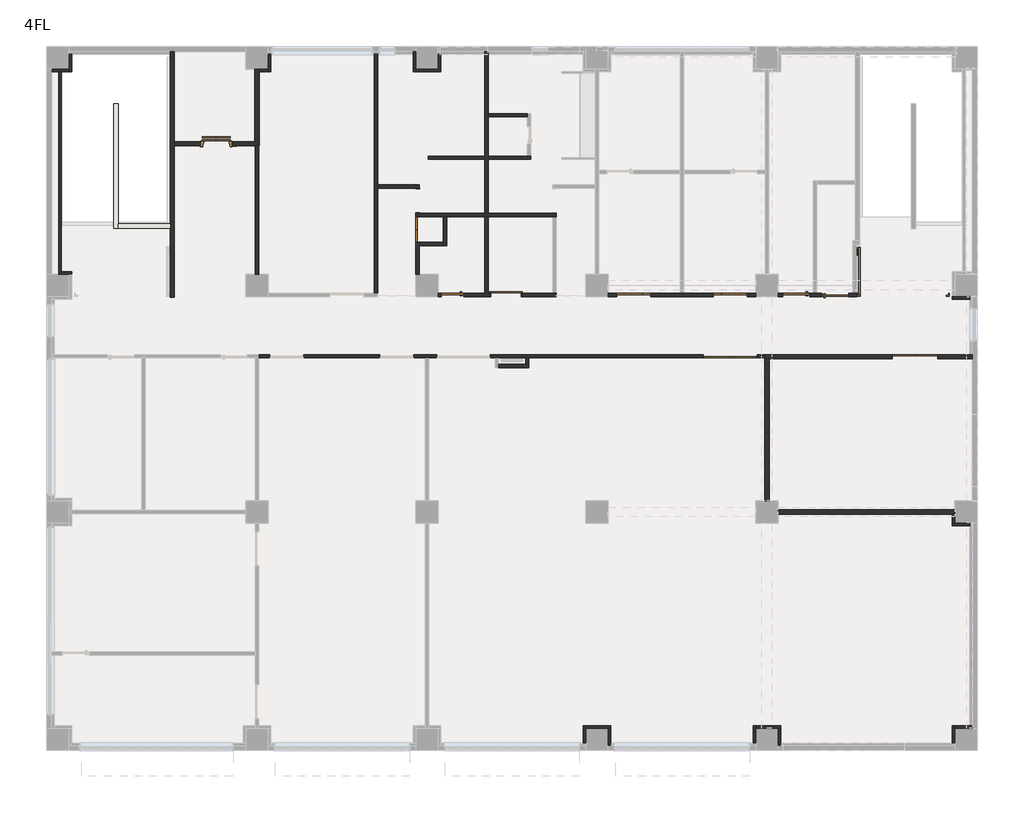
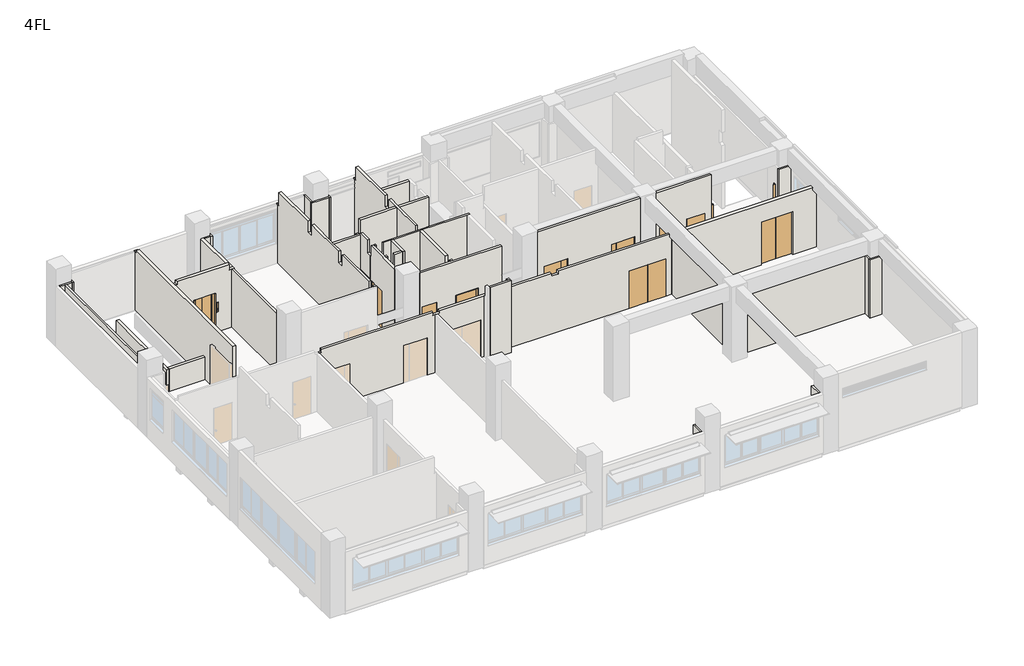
# One storey, part 2 of 5: 45 walls, 12 doors.
"""IFC4 building model written with IfcOpenShell, lengths in millimetres."""

from ifc_helpers import new_model, si_unit, frame, origin, place, context, project, spatial, polyline, outline, extrude, faceted_brep, transform, mapped, element, save
from components import door_0812e9ce, door_48d1ee04, door_18b0804b, door_c235f466, door_dd0264bc, door_2816d948, door_f9cae23c, door_7458d189, door_9fa6e922, door_14d6dc4f, sd13_d994cb3e

model = new_model("IFC4")

# Units and contexts
model_context = context("Model", 3, world=origin())
ifc_project = project(units=[si_unit("LENGTHUNIT", "METRE", prefix="MILLI")], contexts=[model_context])

# Site, building, storey
site = spatial("IfcSite", under=ifc_project)
building = spatial("IfcBuilding", under=site)
storey = spatial("IfcBuildingStorey", under=building, Name="4FL", Elevation=12300.0)

# Doors
placement = place(None, origin())
door_shape = door_0812e9ce(model_context)
element("IfcDoor", 1, ObjectType="営_片開き扉 : LD3 950*2000", at=placement, inside=storey, context=model_context, shape_type="MappedRepresentation", body=[
    mapped(door_shape, transform((26030.0, 15665.0, 12300.0), x_axis=(-1.0, 0.0, 0.0), y_axis=(0.0, -1.0, 0.0), z_axis=(0.0, 0.0, 1.0))),
])
element("IfcDoor", 2, ObjectType="営_片開き扉 : LD3 950*2000", at=placement, inside=storey, context=model_context, shape_type="MappedRepresentation", body=[
    mapped(door_shape, transform((27410.0, 15665.0, 12300.0), x_axis=(1.0, 0.0, 0.0), y_axis=(0.0, 1.0, 0.0), z_axis=(0.0, 0.0, 1.0))),
])
door_2_shape = door_48d1ee04(model_context)
element("IfcDoor", 3, ObjectType="営_片開き扉 : LD11 850*2000", at=placement, inside=storey, context=model_context, shape_type="MappedRepresentation", body=[
    mapped(door_2_shape, transform((13900.0, 15665.0, 12300.0), x_axis=(-1.0, 0.0, 0.0), y_axis=(0.0, -1.0, 0.0), z_axis=(0.0, 0.0, 1.0))),
])
door_3_shape = door_18b0804b(model_context)
element("IfcDoor", 4, ObjectType="営_親子扉 : LD2 1200*2000", at=placement, inside=storey, context=model_context, shape_type="MappedRepresentation", body=[
    mapped(door_3_shape, transform((23700.0, 15665.0, 12300.0), x_axis=(1.0, 0.0, 0.0), y_axis=(0.0, 1.0, 0.0), z_axis=(0.0, 0.0, 1.0))),
])
door_4_shape = door_c235f466(model_context)
element("IfcDoor", 5, ObjectType="営_親子扉 : LD2 1200*2000", at=placement, inside=storey, context=model_context, shape_type="MappedRepresentation", body=[
    mapped(door_4_shape, transform((20300.0, 15665.0, 12300.0), x_axis=(-1.0, 0.0, 0.0), y_axis=(0.0, -1.0, 0.0), z_axis=(0.0, 0.0, 1.0))),
])
door_5_shape = door_dd0264bc(model_context)
element("IfcDoor", 6, ObjectType="営_両開き扉 : SD3b 1600*2300", at=placement, inside=storey, context=model_context, shape_type="MappedRepresentation", body=[
    mapped(door_5_shape, transform((30235.0, 13480.0, 12300.0), x_axis=(1.0, 0.0, 0.0), y_axis=(0.0, 1.0, 0.0), z_axis=(0.0, 0.0, 1.0))),
])
door_6_shape = door_2816d948(model_context)
element("IfcDoor", 7, ObjectType="営_両開き扉 : LD4 1900*2000", at=placement, inside=storey, context=model_context, shape_type="MappedRepresentation", body=[
    mapped(door_6_shape, transform((23710.0, 13500.0, 12300.0), x_axis=(-1.0, 0.0, 0.0), y_axis=(0.0, -1.0, 0.0), z_axis=(0.0, 0.0, 1.0))),
])
door_7_shape = door_f9cae23c(model_context)
element("IfcDoor", 8, ObjectType="営_両開き扉 : LD5 900*2000", at=placement, inside=storey, context=model_context, shape_type="MappedRepresentation", body=[
    mapped(door_7_shape, transform((12665.0, 17975.0, 12300.0), x_axis=(0.0, 1.0, 0.0), y_axis=(-1.0, 0.0, 0.0), z_axis=(0.0, 0.0, 1.0))),
])
door_8_shape = door_7458d189(model_context)
element("IfcDoor", 9, ObjectType="営_引戸／引込戸 : LD1 960*2000", at=placement, inside=storey, context=model_context, shape_type="MappedRepresentation", body=[
    mapped(door_8_shape, transform((15800.0, 15665.0, 12300.0), x_axis=(1.0, 0.0, 0.0), y_axis=(0.0, 1.0, 0.0), z_axis=(0.0, 0.0, 1.0))),
])
door_9_shape = door_9fa6e922(model_context)
element("IfcDoor", 10, ObjectType="営_EVドア : EVドア", at=placement, inside=storey, context=model_context, shape_type="MappedRepresentation", body=[
    mapped(door_9_shape, transform((5560.0, 21000.0, 12300.0), x_axis=(1.0, 0.0, 0.0), y_axis=(0.0, 1.0, 0.0), z_axis=(0.0, 0.0, 1.0))),
])
door_10_shape = door_14d6dc4f(model_context)
element("IfcDoor", 11, ObjectType="営_三方枠 : S1_850*2000", at=placement, inside=storey, context=model_context, shape_type="MappedRepresentation", body=[
    mapped(door_10_shape, transform((12665.0, 18990.25, 12300.0), x_axis=(0.0, 1.0, 0.0), y_axis=(-1.0, 0.0, 0.0), z_axis=(0.0, 0.0, 1.0))),
])
sd13_shape = sd13_d994cb3e(model_context)
element("IfcDoor", 12, ObjectType="営_随閉扉 B階段 2～4F : SD13", at=placement, inside=storey, context=model_context, shape_type="MappedRepresentation", body=[
    mapped(sd13_shape, transform((28100.0, 15665.0, 12300.0), x_axis=(0.0, -1.0, 0.0), y_axis=(1.0, 0.0, 0.0), z_axis=(0.0, 0.0, 1.0))),
])

# Walls
element("IfcWall", 13, ObjectType="(内壁)150_RC", at=placement, inside=storey, context=model_context, shape_type="Brep", body=[
    faceted_brep([(24925.0, 13555.0, 15400.0), (25175.0, 13555.0, 15400.0), (25175.0, 13555.0, 15550.0), (32050.0, 13555.0, 15550.0), (32050.0, 13555.0, 15400.0), (32250.0, 13555.0, 15400.0), (32250.0, 13555.0, 12300.0), (31035.0, 13555.0, 12300.0), (31035.0, 13555.0, 14600.0), (29435.0, 13555.0, 14600.0), (29435.0, 13555.0, 12300.0), (24925.0, 13555.0, 12300.0), (25175.0, 13405.0, 15400.0), (25075.0, 13405.0, 15400.0), (24925.0, 13405.0, 15400.0), (24925.0, 13405.0, 12300.0), (25075.0, 13405.0, 12300.0), (29435.0, 13405.0, 12300.0), (29435.0, 13405.0, 14600.0), (31035.0, 13405.0, 14600.0), (31035.0, 13405.0, 12300.0), (32250.0, 13405.0, 12300.0), (32250.0, 13405.0, 15400.0), (32050.0, 13405.0, 15400.0), (32050.0, 13405.0, 15550.0), (25175.0, 13405.0, 15550.0), (24925.0, 13440.0, 12300.0), (24925.0, 13440.0, 15400.0)], [[[0, 1, 2, 3, 4, 5, 6, 7, 8, 9, 10, 11]], [[12, 13, 14, 15, 16, 17, 18, 19, 20, 21, 22, 23, 24, 25]], [[6, 21, 20, 7]], [[15, 26, 11, 10, 17, 16]], [[21, 6, 5, 22]], [[11, 26, 15, 14, 27, 0]], [[1, 12, 25, 2]], [[12, 1, 0, 27, 14, 13]], [[4, 23, 22, 5]], [[23, 4, 3, 24]], [[10, 9, 18, 17]], [[8, 7, 20, 19]], [[9, 8, 19, 18]], [[3, 2, 25, 24]]]),
])
element("IfcWall", 14, ObjectType="(内壁)150_RC", at=placement, inside=storey, context=model_context, shape_type="SweptSolid", body=[
    extrude(outline(polyline([(24925.0, 13405.0), (25075.0, 13405.0), (25075.0, 8395.0), (24925.0, 8395.0), (24925.0, 13405.0)])), frame((0.0, 0.0, 12300.0), z_axis=(0.0, 0.0, 1.0), x_axis=(1.0, 0.0, 0.0)), (0.0, 0.0, 1.0), 3100.0),
])
element("IfcWall", 15, ObjectType="(内壁)150_RC", at=placement, inside=storey, context=model_context, shape_type="Brep", body=[
    faceted_brep([(25395.0, 7925.0, 12300.0), (31630.0, 7925.0, 12300.0), (31630.0, 7925.0, 15400.0), (31630.0, 7925.0, 15450.0), (25395.0, 7925.0, 15450.0), (31630.0, 8075.0, 12300.0), (25395.0, 8075.0, 12300.0), (25395.0, 8075.0, 15450.0), (31630.0, 8075.0, 15450.0)], [[[0, 1, 2, 3, 4]], [[5, 6, 7, 8]], [[0, 6, 5, 1]], [[6, 0, 4, 7]], [[1, 5, 8, 3, 2]], [[4, 3, 8, 7]]]),
])
element("IfcWall", 16, ObjectType="(内壁)150_RC", at=placement, inside=storey, context=model_context, shape_type="Brep", body=[
    faceted_brep([(3925.0, 24250.0, 12300.0), (3925.0, 18175.0, 12300.0), (3925.0, 18025.0, 12300.0), (3925.0, 15580.0, 12300.0), (3925.0, 15580.0, 15550.0), (3925.0, 24050.0, 15550.0), (3925.0, 24050.0, 15450.0), (3925.0, 24250.0, 15450.0), (4075.0, 15580.0, 12300.0), (4075.0, 20925.0, 12300.0), (4075.0, 21075.0, 12300.0), (4075.0, 24250.0, 12300.0), (4075.0, 24250.0, 15450.0), (4075.0, 24050.0, 15450.0), (4075.0, 24050.0, 15550.0), (4075.0, 21075.0, 15550.0), (4075.0, 20925.0, 15550.0), (4075.0, 15580.0, 15550.0)], [[[0, 1, 2, 3, 4, 5, 6, 7]], [[8, 9, 10, 11, 12, 13, 14, 15, 16, 17]], [[3, 2, 1, 0, 11, 10, 9, 8]], [[4, 3, 8, 17]], [[4, 17, 16, 15, 14, 5]], [[11, 0, 7, 12]], [[13, 6, 5, 14]], [[6, 13, 12, 7]]]),
])
element("IfcWall", 17, ObjectType="(内壁)150_RC", at=placement, inside=storey, context=model_context, shape_type="Brep", body=[
    faceted_brep([(7075.0, 20925.0, 15400.0), (7060.0, 20925.0, 15400.0), (6940.0, 20925.0, 15400.0), (6825.0, 20925.0, 15400.0), (6825.0, 20925.0, 15700.0), (4175.0, 20925.0, 15700.0), (4175.0, 20925.0, 15550.0), (4075.0, 20925.0, 15550.0), (4075.0, 20925.0, 12300.0), (5000.0, 20925.0, 12300.0), (5000.0, 20925.0, 14400.0), (6120.0, 20925.0, 14400.0), (6120.0, 20925.0, 12300.0), (6940.0, 20925.0, 12300.0), (7060.0, 20925.0, 12300.0), (7075.0, 20925.0, 12300.0), (6825.0, 21075.0, 15400.0), (6925.0, 21075.0, 15400.0), (7075.0, 21075.0, 15400.0), (7075.0, 21075.0, 12300.0), (6925.0, 21075.0, 12300.0), (6120.0, 21075.0, 12300.0), (6120.0, 21075.0, 14400.0), (5000.0, 21075.0, 14400.0), (5000.0, 21075.0, 12300.0), (4075.0, 21075.0, 12300.0), (4075.0, 21075.0, 15550.0), (4175.0, 21075.0, 15550.0), (4175.0, 21075.0, 15700.0), (6825.0, 21075.0, 15700.0)], [[[0, 1, 2, 3, 4, 5, 6, 7, 8, 9, 10, 11, 12, 13, 14, 15]], [[16, 17, 18, 19, 20, 21, 22, 23, 24, 25, 26, 27, 28, 29]], [[19, 15, 14, 13, 12, 21, 20]], [[8, 25, 24, 9]], [[15, 19, 18, 0]], [[25, 8, 7, 26]], [[3, 2, 1, 0, 18, 17, 16]], [[3, 16, 29, 4]], [[24, 23, 10, 9]], [[22, 21, 12, 11]], [[23, 22, 11, 10]], [[4, 29, 28, 5]], [[27, 6, 5, 28]], [[6, 27, 26, 7]]]),
])
element("IfcWall", 18, ObjectType="(内壁)150_RC", at=placement, inside=storey, context=model_context, shape_type="Brep", body=[
    faceted_brep([(7075.0, 21075.0, 12300.0), (7075.0, 23540.0, 12300.0), (7075.0, 23630.0, 12300.0), (7075.0, 23630.0, 15400.0), (7075.0, 23540.0, 15400.0), (7075.0, 21075.0, 15400.0), (6925.0, 23630.0, 12300.0), (6925.0, 21075.0, 12300.0), (6925.0, 21075.0, 15400.0), (6925.0, 23630.0, 15400.0)], [[[0, 1, 2, 3, 4, 5]], [[6, 7, 8, 9]], [[0, 7, 6, 2, 1]], [[7, 0, 5, 8]], [[2, 6, 9, 3]], [[5, 4, 3, 9, 8]]]),
])
element("IfcWall", 19, ObjectType="(内壁)W3", at=placement, inside=storey, context=model_context, shape_type="SweptSolid", body=[
    extrude(outline(polyline([(6940.0, 20925.0), (7060.0, 20925.0), (7060.0, 16395.0), (6940.0, 16395.0), (6940.0, 20925.0)])), frame((0.0, 0.0, 12300.0), z_axis=(0.0, 0.0, 1.0), x_axis=(1.0, 0.0, 0.0)), (0.0, 0.0, 1.0), 3100.0),
])
element("IfcWall", 20, ObjectType="(内壁)W3", at=placement, inside=storey, context=model_context, shape_type="Brep", body=[
    faceted_brep([(28175.0, 15725.0, 16250.0), (28175.0, 15725.0, 16150.0), (28175.0, 15725.0, 12300.0), (28025.0, 15725.0, 12300.0), (27885.0, 15725.0, 12300.0), (27885.0, 15725.0, 14300.0), (26935.0, 15725.0, 14300.0), (26935.0, 15725.0, 12300.0), (26760.0, 15725.0, 12300.0), (26640.0, 15725.0, 12300.0), (26505.0, 15725.0, 12300.0), (26505.0, 15725.0, 14300.0), (25555.0, 15725.0, 14300.0), (25555.0, 15725.0, 12300.0), (25395.0, 15725.0, 12300.0), (25395.0, 15725.0, 16250.0), (28175.0, 15605.0, 12300.0), (28175.0, 15605.0, 16250.0), (25395.0, 15605.0, 16250.0), (25395.0, 15605.0, 12300.0), (25555.0, 15605.0, 12300.0), (25555.0, 15605.0, 14300.0), (26505.0, 15605.0, 14300.0), (26505.0, 15605.0, 12300.0), (26935.0, 15605.0, 12300.0), (26935.0, 15605.0, 14300.0), (27885.0, 15605.0, 14300.0), (27885.0, 15605.0, 12300.0)], [[[0, 1, 2, 3, 4, 5, 6, 7, 8, 9, 10, 11, 12, 13, 14, 15]], [[16, 17, 18, 19, 20, 21, 22, 23, 24, 25, 26, 27]], [[2, 16, 27, 4, 3]], [[23, 10, 9, 8, 7, 24]], [[13, 20, 19, 14]], [[17, 0, 15, 18]], [[2, 1, 0, 17, 16]], [[23, 22, 11, 10]], [[21, 20, 13, 12]], [[22, 21, 12, 11]], [[7, 6, 25, 24]], [[5, 4, 27, 26]], [[6, 5, 26, 25]], [[15, 14, 19, 18]]]),
    faceted_brep([(20900.0, 15725.0, 12300.0), (20900.0, 15725.0, 14300.0), (19700.0, 15725.0, 14300.0), (19700.0, 15725.0, 12300.0), (19395.0, 15725.0, 12300.0), (19395.0, 15725.0, 16250.0), (24605.0, 15725.0, 16250.0), (24605.0, 15725.0, 12300.0), (24300.0, 15725.0, 12300.0), (24300.0, 15725.0, 14300.0), (23100.0, 15725.0, 14300.0), (23100.0, 15725.0, 12300.0), (22060.0, 15725.0, 12300.0), (21940.0, 15725.0, 12300.0), (20900.0, 15605.0, 14300.0), (20900.0, 15605.0, 12300.0), (23100.0, 15605.0, 12300.0), (23100.0, 15605.0, 14300.0), (24300.0, 15605.0, 14300.0), (24300.0, 15605.0, 12300.0), (24605.0, 15605.0, 12300.0), (24605.0, 15605.0, 16250.0), (19395.0, 15605.0, 16250.0), (19395.0, 15605.0, 12300.0), (19700.0, 15605.0, 12300.0), (19700.0, 15605.0, 14300.0)], [[[0, 1, 2, 3, 4, 5, 6, 7, 8, 9, 10, 11, 12, 13]], [[14, 15, 16, 17, 18, 19, 20, 21, 22, 23, 24, 25]], [[15, 0, 13, 12, 11, 16]], [[3, 24, 23, 4]], [[19, 8, 7, 20]], [[5, 22, 21, 6]], [[15, 14, 1, 0]], [[25, 24, 3, 2]], [[14, 25, 2, 1]], [[11, 10, 17, 16]], [[9, 8, 19, 18]], [[10, 9, 18, 17]], [[5, 4, 23, 22]], [[7, 6, 21, 20]]]),
])
element("IfcWall", 21, ObjectType="(内壁)W4", at=placement, inside=storey, context=model_context, shape_type="Brep", body=[
    faceted_brep([(14300.0, 15725.0, 12300.0), (14300.0, 15725.0, 14300.0), (13500.0, 15725.0, 14300.0), (13500.0, 15725.0, 12300.0), (13395.0, 15725.0, 12300.0), (13395.0, 15725.0, 16150.0), (15040.0, 15725.0, 16150.0), (15160.0, 15725.0, 16150.0), (17440.0, 15725.0, 16150.0), (17560.0, 15725.0, 16150.0), (17560.0, 15725.0, 12300.0), (17440.0, 15725.0, 12300.0), (16355.0, 15725.0, 12300.0), (16355.0, 15725.0, 14325.0), (15220.0, 15725.0, 14325.0), (15220.0, 15725.0, 12300.0), (15160.0, 15725.0, 12300.0), (15040.0, 15725.0, 12300.0), (14300.0, 15605.0, 14300.0), (14300.0, 15605.0, 12300.0), (15220.0, 15605.0, 12300.0), (15220.0, 15605.0, 14325.0), (16355.0, 15605.0, 14325.0), (16355.0, 15605.0, 12300.0), (17560.0, 15605.0, 12300.0), (17560.0, 15605.0, 16150.0), (13395.0, 15605.0, 16150.0), (13395.0, 15605.0, 12300.0), (13500.0, 15605.0, 12300.0), (13500.0, 15605.0, 14300.0)], [[[0, 1, 2, 3, 4, 5, 6, 7, 8, 9, 10, 11, 12, 13, 14, 15, 16, 17]], [[18, 19, 20, 21, 22, 23, 24, 25, 26, 27, 28, 29]], [[19, 0, 17, 16, 15, 20]], [[3, 28, 27, 4]], [[24, 23, 12, 11, 10]], [[25, 9, 8, 7, 6, 5, 26]], [[19, 18, 1, 0]], [[29, 28, 3, 2]], [[18, 29, 2, 1]], [[14, 21, 20, 15]], [[22, 13, 12, 23]], [[21, 14, 13, 22]], [[5, 4, 27, 26]], [[10, 9, 25, 24]]]),
])
element("IfcWall", 22, ObjectType="(内壁)W4", at=placement, inside=storey, context=model_context, shape_type="Brep", body=[
    faceted_brep([(11140.0, 15725.0, 16150.0), (11140.0, 15825.0, 16150.0), (11140.0, 15825.0, 15450.0), (11140.0, 16175.0, 15450.0), (11140.0, 16175.0, 16150.0), (11140.0, 18495.0, 16150.0), (11140.0, 18495.0, 15550.0), (11140.0, 18845.0, 15550.0), (11140.0, 18845.0, 16150.0), (11140.0, 21165.0, 16150.0), (11140.0, 21165.0, 15550.0), (11140.0, 21515.0, 15550.0), (11140.0, 21515.0, 16150.0), (11140.0, 24050.0, 16150.0), (11140.0, 24050.0, 15450.0), (11140.0, 24250.0, 15450.0), (11140.0, 24250.0, 15400.0), (11140.0, 24160.6075581, 15400.0), (11140.0, 24160.6075581, 12300.0), (11140.0, 15725.0, 12300.0), (11260.0, 15825.0, 16150.0), (11260.0, 15725.0, 16150.0), (11260.0, 15725.0, 12300.0), (11260.0, 19430.0, 12300.0), (11260.0, 19550.0, 12300.0), (11260.0, 24160.6075581, 12300.0), (11260.0, 24160.6075581, 15400.0), (11260.0, 24250.0, 15400.0), (11260.0, 24250.0, 15450.0), (11260.0, 24050.0, 15450.0), (11260.0, 24050.0, 16150.0), (11260.0, 21515.0, 16150.0), (11260.0, 21515.0, 15550.0), (11260.0, 21165.0, 15550.0), (11260.0, 21165.0, 16150.0), (11260.0, 19550.0, 16150.0), (11260.0, 19430.0, 16150.0), (11260.0, 18845.0, 16150.0), (11260.0, 18845.0, 15550.0), (11260.0, 18495.0, 15550.0), (11260.0, 18495.0, 16150.0), (11260.0, 16175.0, 16150.0), (11260.0, 16175.0, 15450.0), (11260.0, 15825.0, 15450.0)], [[[0, 1, 2, 3, 4, 5, 6, 7, 8, 9, 10, 11, 12, 13, 14, 15, 16, 17, 18, 19]], [[20, 21, 22, 23, 24, 25, 26, 27, 28, 29, 30, 31, 32, 33, 34, 35, 36, 37, 38, 39, 40, 41, 42, 43]], [[19, 18, 25, 24, 23, 22]], [[1, 0, 21, 20]], [[4, 41, 40, 5]], [[30, 13, 12, 31]], [[8, 37, 36, 35, 34, 9]], [[15, 28, 27, 16]], [[2, 1, 20, 43]], [[3, 2, 43, 42]], [[4, 3, 42, 41]], [[29, 14, 13, 30]], [[14, 29, 28, 15]], [[17, 26, 25, 18]], [[26, 17, 16, 27]], [[39, 6, 5, 40]], [[6, 39, 38, 7]], [[7, 38, 37, 8]], [[33, 10, 9, 34]], [[10, 33, 32, 11]], [[11, 32, 31, 12]], [[0, 19, 22, 21]]]),
])
element("IfcWall", 23, ObjectType="(内壁)W4", at=placement, inside=storey, context=model_context, shape_type="Brep", body=[
    faceted_brep([(12725.0, 17525.0, 12300.0), (12725.0, 17525.0, 14300.0), (12725.0, 18425.0, 14300.0), (12725.0, 18425.0, 12300.0), (12725.0, 18430.0, 12300.0), (12725.0, 18550.0, 12300.0), (12725.0, 18550.0, 15550.0), (12725.0, 18495.0, 15550.0), (12725.0, 18495.0, 16150.0), (12725.0, 18430.0, 16150.0), (12725.0, 17520.0, 16150.0), (12725.0, 17400.0, 16150.0), (12725.0, 16395.0, 16150.0), (12725.0, 16395.0, 12300.0), (12725.0, 17400.0, 12300.0), (12725.0, 17520.0, 12300.0), (12605.0, 17525.0, 14300.0), (12605.0, 17525.0, 12300.0), (12605.0, 16395.0, 12300.0), (12605.0, 16395.0, 16150.0), (12605.0, 18495.0, 16150.0), (12605.0, 18495.0, 15550.0), (12605.0, 18550.0, 15550.0), (12605.0, 18550.0, 12300.0), (12605.0, 18425.0, 12300.0), (12605.0, 18425.0, 14300.0)], [[[0, 1, 2, 3, 4, 5, 6, 7, 8, 9, 10, 11, 12, 13, 14, 15]], [[16, 17, 18, 19, 20, 21, 22, 23, 24, 25]], [[17, 0, 15, 14, 13, 18]], [[23, 5, 4, 3, 24]], [[19, 12, 11, 10, 9, 8, 20]], [[5, 23, 22, 6]], [[17, 16, 1, 0]], [[25, 24, 3, 2]], [[16, 25, 2, 1]], [[13, 12, 19, 18]], [[7, 21, 20, 8]], [[21, 7, 6, 22]]]),
])
element("IfcWall", 24, ObjectType="(内壁)W4", at=placement, inside=storey, context=model_context, shape_type="Brep", body=[
    faceted_brep([(12725.0, 18430.0, 12300.0), (13570.0, 18430.0, 12300.0), (13690.0, 18430.0, 12300.0), (15040.0, 18430.0, 12300.0), (15160.0, 18430.0, 12300.0), (17440.0, 18430.0, 12300.0), (17560.0, 18430.0, 12300.0), (17560.0, 18430.0, 16150.0), (17440.0, 18430.0, 16150.0), (15160.0, 18430.0, 16150.0), (15040.0, 18430.0, 16150.0), (13690.0, 18430.0, 16150.0), (13570.0, 18430.0, 16150.0), (13175.0, 18430.0, 16150.0), (13175.0, 18430.0, 15400.0), (12825.0, 18430.0, 15400.0), (12825.0, 18430.0, 16150.0), (12725.0, 18430.0, 16150.0), (17560.0, 18550.0, 12300.0), (17440.0, 18550.0, 12300.0), (15160.0, 18550.0, 12300.0), (15040.0, 18550.0, 12300.0), (12725.0, 18550.0, 12300.0), (12725.0, 18550.0, 15550.0), (12825.0, 18550.0, 15550.0), (12825.0, 18550.0, 15400.0), (13175.0, 18550.0, 15400.0), (13175.0, 18550.0, 15550.0), (15040.0, 18550.0, 15550.0), (15160.0, 18550.0, 15550.0), (17440.0, 18550.0, 15550.0), (17560.0, 18550.0, 15550.0), (12825.0, 18495.0, 16150.0), (12725.0, 18495.0, 16150.0), (17560.0, 18495.0, 16150.0), (13175.0, 18495.0, 16150.0), (12725.0, 18495.0, 15550.0), (17560.0, 18495.0, 15550.0), (13175.0, 18495.0, 15550.0), (12825.0, 18495.0, 15550.0)], [[[0, 1, 2, 3, 4, 5, 6, 7, 8, 9, 10, 11, 12, 13, 14, 15, 16, 17]], [[18, 19, 20, 21, 22, 23, 24, 25, 26, 27, 28, 29, 30, 31]], [[6, 5, 4, 3, 2, 1, 0, 22, 21, 20, 19, 18]], [[17, 16, 32, 33]], [[13, 12, 11, 10, 9, 8, 7, 34, 35]], [[0, 17, 33, 36, 23, 22]], [[7, 6, 18, 31, 37, 34]], [[14, 13, 35, 38, 27, 26]], [[15, 14, 26, 25]], [[16, 15, 25, 24, 39, 32]], [[37, 38, 35, 34]], [[38, 37, 31, 30, 29, 28, 27]], [[39, 36, 33, 32]], [[36, 39, 24, 23]]]),
])
element("IfcWall", 25, ObjectType="(内壁)W3", at=placement, inside=storey, context=model_context, shape_type="Brep", body=[
    faceted_brep([(13690.0, 17400.0, 12300.0), (13690.0, 18430.0, 12300.0), (13690.0, 18430.0, 16150.0), (13690.0, 17400.0, 16150.0), (13570.0, 17400.0, 12300.0), (13570.0, 17400.0, 16150.0), (13570.0, 17520.0, 16150.0), (13570.0, 18430.0, 16150.0), (13570.0, 18430.0, 12300.0), (13570.0, 17520.0, 12300.0)], [[[0, 1, 2, 3]], [[4, 5, 6, 7, 8, 9]], [[1, 0, 4, 9, 8]], [[3, 2, 7, 6, 5]], [[2, 1, 8, 7]], [[0, 3, 5, 4]]]),
])
element("IfcWall", 26, ObjectType="(内壁)W4", at=placement, inside=storey, context=model_context, shape_type="SweptSolid", body=[
    extrude(outline(polyline([(12300.0, 13040.0), (12300.0, 15040.0), (16150.0, 15040.0), (16150.0, 13175.0), (15400.0, 13175.0), (15400.0, 13040.0), (12300.0, 13040.0)])), frame((0.0, 20450.0, 0.0), z_axis=(0.0, 1.0, 0.0), x_axis=(0.0, 0.0, 1.0)), (0.0, 0.0, 1.0), 120.0),
])
element("IfcWall", 27, ObjectType="(内壁)W3", at=placement, inside=storey, context=model_context, shape_type="SweptSolid", body=[
    extrude(outline(polyline([(15160.0, 22070.0), (16540.0, 22070.0), (16540.0, 21950.0), (15160.0, 21950.0), (15160.0, 22070.0)])), frame((0.0, 0.0, 12300.0), z_axis=(0.0, 0.0, 1.0), x_axis=(1.0, 0.0, 0.0)), (0.0, 0.0, 1.0), 3850.0),
])
element("IfcWall", 28, ObjectType="(内壁)W4", at=placement, inside=storey, context=model_context, shape_type="Brep", body=[
    faceted_brep([(11260.0, 19430.0, 12300.0), (12605.0, 19430.0, 12300.0), (12725.0, 19430.0, 12300.0), (12725.0, 19430.0, 16150.0), (11260.0, 19430.0, 16150.0), (11260.0, 19550.0, 12300.0), (11260.0, 19550.0, 16150.0), (12725.0, 19550.0, 16150.0), (12725.0, 19550.0, 12300.0)], [[[0, 1, 2, 3, 4]], [[5, 6, 7, 8]], [[2, 1, 0, 5, 8]], [[4, 3, 7, 6]], [[0, 4, 6, 5]], [[3, 2, 8, 7]]]),
])
element("IfcWall", 29, ObjectType="(内壁)W4", at=placement, inside=storey, context=model_context, shape_type="Brep", body=[
    faceted_brep([(15040.0, 18430.0, 12300.0), (15040.0, 15725.0, 12300.0), (15040.0, 15725.0, 16150.0), (15040.0, 15825.0, 16150.0), (15040.0, 15825.0, 15450.0), (15040.0, 16175.0, 15450.0), (15040.0, 16175.0, 16150.0), (15040.0, 18430.0, 16150.0), (15160.0, 15725.0, 12300.0), (15160.0, 18430.0, 12300.0), (15160.0, 18430.0, 16150.0), (15160.0, 16175.0, 16150.0), (15160.0, 16175.0, 15450.0), (15160.0, 15825.0, 15450.0), (15160.0, 15825.0, 16150.0), (15160.0, 15725.0, 16150.0)], [[[0, 1, 2, 3, 4, 5, 6, 7]], [[8, 9, 10, 11, 12, 13, 14, 15]], [[1, 0, 9, 8]], [[10, 7, 6, 11]], [[2, 15, 14, 3]], [[0, 7, 10, 9]], [[2, 1, 8, 15]], [[4, 3, 14, 13]], [[5, 4, 13, 12]], [[6, 5, 12, 11]]]),
    faceted_brep([(15040.0, 24250.0, 12300.0), (15040.0, 24160.0, 12300.0), (15040.0, 20570.0, 12300.0), (15040.0, 20450.0, 12300.0), (15040.0, 18550.0, 12300.0), (15040.0, 18550.0, 15550.0), (15040.0, 18845.0, 15550.0), (15040.0, 18845.0, 16150.0), (15040.0, 20450.0, 16150.0), (15040.0, 20570.0, 16150.0), (15040.0, 21165.0, 16150.0), (15040.0, 21165.0, 15550.0), (15040.0, 21515.0, 15550.0), (15040.0, 21515.0, 16150.0), (15040.0, 24050.0, 16150.0), (15040.0, 24050.0, 15450.0), (15040.0, 24250.0, 15450.0), (15040.0, 24250.0, 15400.0), (15160.0, 18550.0, 12300.0), (15160.0, 20450.0, 12300.0), (15160.0, 20570.0, 12300.0), (15160.0, 21950.0, 12300.0), (15160.0, 22070.0, 12300.0), (15160.0, 24160.0, 12300.0), (15160.0, 24250.0, 12300.0), (15160.0, 24250.0, 15400.0), (15160.0, 24250.0, 15450.0), (15160.0, 24050.0, 15450.0), (15160.0, 24050.0, 16150.0), (15160.0, 22070.0, 16150.0), (15160.0, 21950.0, 16150.0), (15160.0, 21515.0, 16150.0), (15160.0, 21515.0, 15550.0), (15160.0, 21165.0, 15550.0), (15160.0, 21165.0, 16150.0), (15160.0, 20570.0, 16150.0), (15160.0, 20450.0, 16150.0), (15160.0, 18845.0, 16150.0), (15160.0, 18845.0, 15550.0), (15160.0, 18550.0, 15550.0)], [[[0, 1, 2, 3, 4, 5, 6, 7, 8, 9, 10, 11, 12, 13, 14, 15, 16, 17]], [[18, 19, 20, 21, 22, 23, 24, 25, 26, 27, 28, 29, 30, 31, 32, 33, 34, 35, 36, 37, 38, 39]], [[4, 3, 2, 1, 0, 24, 23, 22, 21, 20, 19, 18]], [[28, 14, 13, 31, 30, 29]], [[7, 37, 36, 35, 34, 10, 9, 8]], [[4, 18, 39, 5]], [[24, 0, 17, 16, 26, 25]], [[27, 15, 14, 28]], [[15, 27, 26, 16]], [[38, 6, 5, 39]], [[6, 38, 37, 7]], [[33, 11, 10, 34]], [[11, 33, 32, 12]], [[12, 32, 31, 13]]]),
])
element("IfcWall", 30, ObjectType="(内壁)W3", at=placement, inside=storey, context=model_context, shape_type="SweptSolid", body=[
    extrude(outline(polyline([(12300.0, 12725.0), (12300.0, 13570.0), (16150.0, 13570.0), (16150.0, 13175.0), (15400.0, 13175.0), (15400.0, 12825.0), (16150.0, 12825.0), (16150.0, 12725.0), (12300.0, 12725.0)])), frame((0.0, 17400.0, 0.0), z_axis=(0.0, 1.0, 0.0), x_axis=(0.0, 0.0, 1.0)), (0.0, 0.0, 1.0), 120.0),
])
element("IfcWall", 31, ObjectType="(内壁)120_部屋境界OFF", at=placement, inside=storey, context=model_context, shape_type="Brep", body=[
    faceted_brep([(12725.0, 18550.0, 12300.0), (12725.0, 18555.25, 12300.0), (12725.0, 18555.25, 14310.0), (12725.0, 19425.25, 14310.0), (12725.0, 19425.25, 12300.0), (12725.0, 19430.0, 12300.0), (12725.0, 19430.0, 16150.0), (12725.0, 19430.0, 16250.0), (12725.0, 18845.0, 16250.0), (12725.0, 18845.0, 15550.0), (12725.0, 18550.0, 15550.0), (12605.0, 18555.25, 12300.0), (12605.0, 18550.0, 12300.0), (12605.0, 18550.0, 15550.0), (12605.0, 18845.0, 15550.0), (12605.0, 18845.0, 16250.0), (12605.0, 19430.0, 16250.0), (12605.0, 19430.0, 12300.0), (12605.0, 19425.25, 12300.0), (12605.0, 19425.25, 14310.0), (12605.0, 18555.25, 14310.0)], [[[0, 1, 2, 3, 4, 5, 6, 7, 8, 9, 10]], [[11, 12, 13, 14, 15, 16, 17, 18, 19, 20]], [[12, 11, 1, 0]], [[5, 4, 18, 17]], [[7, 16, 15, 8]], [[12, 0, 10, 13]], [[20, 2, 1, 11]], [[2, 20, 19, 3]], [[3, 19, 18, 4]], [[7, 6, 5, 17, 16]], [[9, 14, 13, 10]], [[14, 9, 8, 15]]]),
])
element("IfcWall", 32, ObjectType="(内壁)W3", at=placement, inside=storey, context=model_context, shape_type="Brep", body=[
    faceted_brep([(7440.0, 13440.0, 14300.0), (8640.0, 13440.0, 14300.0), (8640.0, 13440.0, 12300.0), (11325.0, 13440.0, 12300.0), (11325.0, 13440.0, 14300.0), (12525.0, 13440.0, 14300.0), (12525.0, 13440.0, 12300.0), (12940.0, 13440.0, 12300.0), (13060.0, 13440.0, 12300.0), (13340.0, 13440.0, 12300.0), (13340.0, 13440.0, 14300.0), (15240.0, 13440.0, 14300.0), (15240.0, 13440.0, 12300.0), (15400.0, 13440.0, 12300.0), (15520.0, 13440.0, 12300.0), (16480.0, 13440.0, 12300.0), (16600.0, 13440.0, 12300.0), (22760.0, 13440.0, 12300.0), (22760.0, 13440.0, 14300.0), (24660.0, 13440.0, 14300.0), (24660.0, 13440.0, 12300.0), (24925.0, 13440.0, 12300.0), (24925.0, 13440.0, 15400.0), (24825.0, 13440.0, 15400.0), (24825.0, 13440.0, 15550.0), (19175.0, 13440.0, 15550.0), (19175.0, 13440.0, 15400.0), (18825.0, 13440.0, 15400.0), (18825.0, 13440.0, 15550.0), (16600.0, 13440.0, 15550.0), (16480.0, 13440.0, 15550.0), (15520.0, 13440.0, 15550.0), (15400.0, 13440.0, 15550.0), (13175.0, 13440.0, 15550.0), (13175.0, 13440.0, 15400.0), (13060.0, 13440.0, 15400.0), (12940.0, 13440.0, 15400.0), (12825.0, 13440.0, 15400.0), (12825.0, 13440.0, 15550.0), (7175.0, 13440.0, 15550.0), (7175.0, 13440.0, 15400.0), (7060.0, 13440.0, 15400.0), (7050.0, 13440.0, 15400.0), (7050.0, 13440.0, 12300.0), (7060.0, 13440.0, 12300.0), (7440.0, 13440.0, 12300.0), (8640.0, 13560.0, 14300.0), (7440.0, 13560.0, 14300.0), (7440.0, 13560.0, 12300.0), (7050.0, 13560.0, 12300.0), (7050.0, 13560.0, 15400.0), (7175.0, 13560.0, 15400.0), (7175.0, 13560.0, 15550.0), (12825.0, 13560.0, 15550.0), (12825.0, 13560.0, 15400.0), (13175.0, 13560.0, 15400.0), (13175.0, 13560.0, 15550.0), (18825.0, 13560.0, 15550.0), (18825.0, 13560.0, 15400.0), (19175.0, 13560.0, 15400.0), (19175.0, 13560.0, 15550.0), (24825.0, 13560.0, 15550.0), (24825.0, 13560.0, 15400.0), (24925.0, 13560.0, 15400.0), (24925.0, 13560.0, 12300.0), (24660.0, 13560.0, 12300.0), (24660.0, 13560.0, 14300.0), (22760.0, 13560.0, 14300.0), (22760.0, 13560.0, 12300.0), (15240.0, 13560.0, 12300.0), (15240.0, 13560.0, 14300.0), (13340.0, 13560.0, 14300.0), (13340.0, 13560.0, 12300.0), (12525.0, 13560.0, 12300.0), (12525.0, 13560.0, 14300.0), (11325.0, 13560.0, 14300.0), (11325.0, 13560.0, 12300.0), (8640.0, 13560.0, 12300.0), (24925.0, 13555.0, 12300.0), (24925.0, 13555.0, 15400.0)], [[[0, 1, 2, 3, 4, 5, 6, 7, 8, 9, 10, 11, 12, 13, 14, 15, 16, 17, 18, 19, 20, 21, 22, 23, 24, 25, 26, 27, 28, 29, 30, 31, 32, 33, 34, 35, 36, 37, 38, 39, 40, 41, 42, 43, 44, 45]], [[46, 47, 48, 49, 50, 51, 52, 53, 54, 55, 56, 57, 58, 59, 60, 61, 62, 63, 64, 65, 66, 67, 68, 69, 70, 71, 72, 73, 74, 75, 76, 77]], [[64, 78, 21, 20, 65]], [[2, 77, 76, 3]], [[6, 73, 72, 9, 8, 7]], [[12, 69, 68, 17, 16, 15, 14, 13]], [[43, 49, 48, 45, 44]], [[52, 39, 38, 53]], [[56, 33, 32, 31, 30, 29, 28, 57]], [[60, 25, 24, 61]], [[49, 43, 42, 50]], [[21, 78, 64, 63, 79, 22]], [[1, 0, 47, 46]], [[0, 45, 48, 47]], [[2, 1, 46, 77]], [[75, 74, 5, 4]], [[74, 73, 6, 5]], [[76, 75, 4, 3]], [[11, 10, 71, 70]], [[10, 9, 72, 71]], [[12, 11, 70, 69]], [[19, 18, 67, 66]], [[18, 17, 68, 67]], [[20, 19, 66, 65]], [[51, 40, 39, 52]], [[40, 51, 50, 42, 41]], [[55, 34, 33, 56]], [[34, 55, 54, 37, 36, 35]], [[37, 54, 53, 38]], [[59, 26, 25, 60]], [[26, 59, 58, 27]], [[27, 58, 57, 28]], [[62, 23, 22, 79, 63]], [[23, 62, 61, 24]]]),
])
element("IfcWall", 33, ObjectType="(内壁)W3", at=placement, inside=storey, context=model_context, shape_type="Brep", body=[
    faceted_brep([(15160.0, 20450.0, 12300.0), (16660.0, 20450.0, 12300.0), (16660.0, 20450.0, 16150.0), (15160.0, 20450.0, 16150.0), (15160.0, 20570.0, 12300.0), (15160.0, 20570.0, 16150.0), (16540.0, 20570.0, 16150.0), (16660.0, 20570.0, 16150.0), (16660.0, 20570.0, 12300.0), (16540.0, 20570.0, 12300.0)], [[[0, 1, 2, 3]], [[4, 5, 6, 7, 8, 9]], [[1, 0, 4, 9, 8]], [[3, 2, 7, 6, 5]], [[2, 1, 8, 7]], [[0, 3, 5, 4]]]),
])
element("IfcWall", 34, ObjectType="(内壁)150_RC", at=placement, inside=storey, context=model_context, shape_type="SweptSolid", body=[
    extrude(outline(polyline([(2095.0, 18175.0), (3925.0, 18175.0), (3925.0, 18025.0), (2095.0, 18025.0), (2095.0, 18175.0)])), frame((0.0, 0.0, 12300.0), z_axis=(0.0, 0.0, 1.0), x_axis=(1.0, 0.0, 0.0)), (0.0, 0.0, 1.0), 1200.0),
])
element("IfcWall", 35, ObjectType="(内壁)150_RC", at=placement, inside=storey, context=model_context, shape_type="Brep", body=[
    faceted_brep([(2095.0, 18025.0, 12300.0), (2095.0, 18175.0, 12300.0), (2095.0, 22410.0, 12300.0), (2095.0, 22410.0, 13500.0), (2095.0, 18175.0, 13500.0), (2095.0, 18025.0, 13500.0), (1945.0, 18025.0, 12300.0), (1945.0, 18025.0, 13500.0), (1945.0, 22410.0, 13500.0), (1945.0, 22410.0, 12300.0)], [[[0, 1, 2, 3, 4, 5]], [[6, 7, 8, 9]], [[2, 1, 0, 6, 9]], [[3, 2, 9, 8]], [[5, 4, 3, 8, 7]], [[0, 5, 7, 6]]]),
])
element("IfcWall", 36, ObjectType="(内壁)W5", at=placement, inside=storey, context=model_context, shape_type="Brep", body=[
    faceted_brep([(32160.0, 15605.0, 12300.0), (31630.0, 15605.0, 12300.0), (31540.0, 15605.0, 12300.0), (31540.0, 15605.0, 15400.0), (31630.0, 15605.0, 15400.0), (32160.0, 15605.0, 15400.0), (32160.0, 15515.0, 12300.0), (32160.0, 15515.0, 15400.0), (31540.0, 15515.0, 15400.0), (31540.0, 15515.0, 12300.0)], [[[0, 1, 2, 3, 4, 5]], [[6, 7, 8, 9]], [[2, 1, 0, 6, 9]], [[5, 4, 3, 8, 7]], [[0, 5, 7, 6]], [[3, 2, 9, 8]]]),
])
element("IfcWall", 37, ObjectType="(内壁)W5", at=placement, inside=storey, context=model_context, shape_type="Brep", body=[
    faceted_brep([(13395.0, 24160.0, 12300.0), (13395.0, 23630.0, 12300.0), (13395.0, 23540.0, 12300.0), (13395.0, 23540.0, 15400.0), (13395.0, 23630.0, 15400.0), (13395.0, 24160.0, 15400.0), (13485.0, 24160.0, 12300.0), (13485.0, 24160.0, 15400.0), (13485.0, 23540.0, 15400.0), (13485.0, 23540.0, 12300.0)], [[[0, 1, 2, 3, 4, 5]], [[6, 7, 8, 9]], [[2, 1, 0, 6, 9]], [[5, 4, 3, 8, 7]], [[0, 5, 7, 6]], [[3, 2, 9, 8]]]),
])
element("IfcWall", 38, ObjectType="(内壁)W5", at=placement, inside=storey, context=model_context, shape_type="Brep", body=[
    faceted_brep([(13395.0, 23630.0, 12300.0), (12605.0, 23630.0, 12300.0), (12515.0, 23630.0, 12300.0), (12515.0, 23630.0, 15400.0), (12605.0, 23630.0, 15400.0), (13395.0, 23630.0, 15400.0), (13395.0, 23540.0, 12300.0), (13395.0, 23540.0, 15400.0), (12515.0, 23540.0, 15400.0), (12515.0, 23540.0, 12300.0)], [[[0, 1, 2, 3, 4, 5]], [[6, 7, 8, 9]], [[2, 1, 0, 6, 9]], [[5, 4, 3, 8, 7]], [[0, 5, 7, 6]], [[3, 2, 9, 8]]]),
])
element("IfcWall", 39, ObjectType="(内壁)W5", at=placement, inside=storey, context=model_context, shape_type="Brep", body=[
    faceted_brep([(12605.0, 23630.0, 12300.0), (12605.0, 24250.0, 12300.0), (12605.0, 24250.0, 15400.0), (12605.0, 23630.0, 15400.0), (12515.0, 23630.0, 12300.0), (12515.0, 23630.0, 15400.0), (12515.0, 24160.6075581, 15400.0), (12515.0, 24250.0, 15400.0), (12515.0, 24250.0, 12300.0), (12515.0, 24160.6075581, 12300.0)], [[[0, 1, 2, 3]], [[4, 5, 6, 7, 8, 9]], [[1, 0, 4, 9, 8]], [[3, 2, 7, 6, 5]], [[0, 3, 5, 4]], [[2, 1, 8, 7]]]),
])
element("IfcWall", 40, ObjectType="(内壁)W5", at=placement, inside=storey, context=model_context, shape_type="Brep", body=[
    faceted_brep([(7395.0, 24160.6075581, 12300.0), (7395.0, 23630.0, 12300.0), (7395.0, 23540.0, 12300.0), (7395.0, 23540.0, 15400.0), (7395.0, 23630.0, 15400.0), (7395.0, 24160.6075581, 15400.0), (7485.0, 24160.6075581, 12300.0), (7485.0, 24160.6075581, 15400.0), (7485.0, 23540.0, 15400.0), (7485.0, 23540.0, 12300.0)], [[[0, 1, 2, 3, 4, 5]], [[6, 7, 8, 9]], [[2, 1, 0, 6, 9]], [[5, 4, 3, 8, 7]], [[0, 5, 7, 6]], [[3, 2, 9, 8]]]),
])
element("IfcWall", 41, ObjectType="(内壁)W5", at=placement, inside=storey, context=model_context, shape_type="SweptSolid", body=[
    extrude(outline(polyline([(7075.0, 23630.0), (7395.0, 23630.0), (7395.0, 23540.0), (7075.0, 23540.0), (7075.0, 23630.0)])), frame((0.0, 0.0, 12300.0), z_axis=(0.0, 0.0, 1.0), x_axis=(1.0, 0.0, 0.0)), (0.0, 0.0, 1.0), 3100.0),
])
element("IfcWall", 42, ObjectType="(内壁)W5", at=placement, inside=storey, context=model_context, shape_type="Brep", body=[
    faceted_brep([(370.0, 24160.0, 12300.0), (370.0, 23630.0, 12300.0), (370.0, 23540.0, 12300.0), (370.0, 23540.0, 15400.0), (370.0, 23630.0, 15400.0), (370.0, 24160.0, 15400.0), (460.0, 24160.0, 12300.0), (460.0, 24160.0, 15400.0), (460.0, 23540.0, 15400.0), (460.0, 23540.0, 12300.0)], [[[0, 1, 2, 3, 4, 5]], [[6, 7, 8, 9]], [[2, 1, 0, 6, 9]], [[5, 4, 3, 8, 7]], [[0, 5, 7, 6]], [[3, 2, 9, 8]]]),
])
element("IfcWall", 43, ObjectType="(内壁)W5", at=placement, inside=storey, context=model_context, shape_type="Brep", body=[
    faceted_brep([(370.0, 23630.0, 12300.0), (-250.0, 23630.0, 12300.0), (-250.0, 23630.0, 15400.0), (370.0, 23630.0, 15400.0), (370.0, 23540.0, 12300.0), (370.0, 23540.0, 15400.0), (90.0, 23540.0, 15400.0), (0.0, 23540.0, 15400.0), (-250.0, 23540.0, 15400.0), (-250.0, 23540.0, 12300.0), (0.0, 23540.0, 12300.0), (90.0, 23540.0, 12300.0)], [[[0, 1, 2, 3]], [[4, 5, 6, 7, 8, 9, 10, 11]], [[1, 0, 4, 11, 10, 9]], [[3, 2, 8, 7, 6, 5]], [[0, 3, 5, 4]], [[2, 1, 9, 8]]]),
])
element("IfcWall", 44, ObjectType="(内壁)W5", at=placement, inside=storey, context=model_context, shape_type="Brep", body=[
    faceted_brep([(0.0, 23540.0, 12300.0), (0.0, 16395.0, 12300.0), (0.0, 16395.0, 15400.0), (0.0, 23540.0, 15400.0), (90.0, 23540.0, 12300.0), (90.0, 23540.0, 15400.0), (90.0, 16485.0, 15400.0), (90.0, 16395.0, 15400.0), (90.0, 16395.0, 12300.0), (90.0, 16485.0, 12300.0)], [[[0, 1, 2, 3]], [[4, 5, 6, 7, 8, 9]], [[1, 0, 4, 9, 8]], [[3, 2, 7, 6, 5]], [[0, 3, 5, 4]], [[2, 1, 8, 7]]]),
])
element("IfcWall", 45, ObjectType="(内壁)W5", at=placement, inside=storey, context=model_context, shape_type="Brep", body=[
    faceted_brep([(90.0, 16395.0, 12300.0), (370.0, 16395.0, 12300.0), (460.0, 16395.0, 12300.0), (460.0, 16395.0, 15400.0), (370.0, 16395.0, 15400.0), (90.0, 16395.0, 15400.0), (90.0, 16485.0, 12300.0), (90.0, 16485.0, 15400.0), (460.0, 16485.0, 15400.0), (460.0, 16485.0, 12300.0)], [[[0, 1, 2, 3, 4, 5]], [[6, 7, 8, 9]], [[2, 1, 0, 6, 9]], [[5, 4, 3, 8, 7]], [[0, 5, 7, 6]], [[3, 2, 9, 8]]]),
])
element("IfcWall", 46, ObjectType="(内壁)W5", at=placement, inside=storey, context=model_context, shape_type="Brep", body=[
    faceted_brep([(18605.0, -160.0, 12200.0), (18605.0, 370.0, 12200.0), (18605.0, 460.0, 12200.0), (18605.0, 460.0, 15400.0), (18605.0, 370.0, 15400.0), (18605.0, -160.0, 15400.0), (18515.0, -160.0, 12200.0), (18515.0, -160.0, 15400.0), (18515.0, 460.0, 15400.0), (18515.0, 460.0, 12200.0)], [[[0, 1, 2, 3, 4, 5]], [[6, 7, 8, 9]], [[2, 1, 0, 6, 9]], [[5, 4, 3, 8, 7]], [[0, 5, 7, 6]], [[3, 2, 9, 8]]]),
])
element("IfcWall", 47, ObjectType="(内壁)W5", at=placement, inside=storey, context=model_context, shape_type="Brep", body=[
    faceted_brep([(18605.0, 370.0, 12200.0), (19395.0, 370.0, 12200.0), (19485.0, 370.0, 12200.0), (19485.0, 370.0, 15400.0), (19395.0, 370.0, 15400.0), (18605.0, 370.0, 15400.0), (18605.0, 460.0, 12200.0), (18605.0, 460.0, 15400.0), (19485.0, 460.0, 15400.0), (19485.0, 460.0, 12200.0)], [[[0, 1, 2, 3, 4, 5]], [[6, 7, 8, 9]], [[2, 1, 0, 6, 9]], [[5, 4, 3, 8, 7]], [[0, 5, 7, 6]], [[3, 2, 9, 8]]]),
])
element("IfcWall", 48, ObjectType="(内壁)W5", at=placement, inside=storey, context=model_context, shape_type="Brep", body=[
    faceted_brep([(19395.0, 370.0, 12200.0), (19395.0, -250.0, 12200.0), (19395.0, -250.0, 15400.0), (19395.0, 370.0, 15400.0), (19485.0, 370.0, 12200.0), (19485.0, 370.0, 15400.0), (19485.0, -160.0, 15400.0), (19485.0, -250.0, 15400.0), (19485.0, -250.0, 12200.0), (19485.0, -160.0, 12200.0)], [[[0, 1, 2, 3]], [[4, 5, 6, 7, 8, 9]], [[1, 0, 4, 9, 8]], [[3, 2, 7, 6, 5]], [[0, 3, 5, 4]], [[1, 8, 7, 2]]]),
])
element("IfcWall", 49, ObjectType="(内壁)W5", at=placement, inside=storey, context=model_context, shape_type="Brep", body=[
    faceted_brep([(24605.0, -160.0, 12200.0), (24605.0, 370.0, 12200.0), (24605.0, 460.0, 12200.0), (24605.0, 460.0, 15400.0), (24605.0, 370.0, 15400.0), (24605.0, -160.0, 15400.0), (24515.0, -160.0, 12200.0), (24515.0, -160.0, 15400.0), (24515.0, 460.0, 15400.0), (24515.0, 460.0, 12200.0)], [[[0, 1, 2, 3, 4, 5]], [[6, 7, 8, 9]], [[2, 1, 0, 6, 9]], [[5, 4, 3, 8, 7]], [[0, 5, 7, 6]], [[3, 2, 9, 8]]]),
])
element("IfcWall", 50, ObjectType="(内壁)W5", at=placement, inside=storey, context=model_context, shape_type="Brep", body=[
    faceted_brep([(24605.0, 370.0, 12200.0), (25395.0, 370.0, 12200.0), (25485.0, 370.0, 12200.0), (25485.0, 370.0, 15400.0), (25395.0, 370.0, 15400.0), (24605.0, 370.0, 15400.0), (24605.0, 460.0, 12200.0), (24605.0, 460.0, 15400.0), (25485.0, 460.0, 15400.0), (25485.0, 460.0, 12200.0)], [[[0, 1, 2, 3, 4, 5]], [[6, 7, 8, 9]], [[2, 1, 0, 6, 9]], [[5, 4, 3, 8, 7]], [[0, 5, 7, 6]], [[3, 2, 9, 8]]]),
])
element("IfcWall", 51, ObjectType="(内壁)W5", at=placement, inside=storey, context=model_context, shape_type="Brep", body=[
    faceted_brep([(25395.0, 370.0, 12200.0), (25395.0, -250.0, 12200.0), (25395.0, -250.0, 15400.0), (25395.0, 370.0, 15400.0), (25485.0, 370.0, 12200.0), (25485.0, 370.0, 15400.0), (25485.0, -250.0, 15400.0), (25485.0, -250.0, 12200.0), (25485.0, -160.0, 12200.0)], [[[0, 1, 2, 3]], [[4, 5, 6, 7, 8]], [[1, 0, 4, 8, 7]], [[3, 2, 6, 5]], [[0, 3, 5, 4]], [[1, 7, 6, 2]]]),
])
element("IfcWall", 52, ObjectType="(内壁)W5", at=placement, inside=storey, context=model_context, shape_type="Brep", body=[
    faceted_brep([(31630.0, -160.0, 12200.0), (31630.0, 370.0, 12200.0), (31630.0, 460.0, 12200.0), (31630.0, 460.0, 15400.0), (31630.0, 370.0, 15400.0), (31630.0, -160.0, 15400.0), (31540.0, -160.0, 12200.0), (31540.0, -160.0, 15400.0), (31540.0, 460.0, 15400.0), (31540.0, 460.0, 12200.0)], [[[0, 1, 2, 3, 4, 5]], [[6, 7, 8, 9]], [[2, 1, 0, 6, 9]], [[5, 4, 3, 8, 7]], [[0, 5, 7, 6]], [[3, 2, 9, 8]]]),
])
element("IfcWall", 53, ObjectType="(内壁)W5", at=placement, inside=storey, context=model_context, shape_type="Brep", body=[
    faceted_brep([(31630.0, 370.0, 12200.0), (32250.0, 370.0, 12200.0), (32250.0, 370.0, 15400.0), (31630.0, 370.0, 15400.0), (31630.0, 460.0, 12200.0), (31630.0, 460.0, 15400.0), (32160.0, 460.0, 15400.0), (32250.0, 460.0, 15400.0), (32250.0, 460.0, 12200.0), (32160.0, 460.0, 12200.0)], [[[0, 1, 2, 3]], [[4, 5, 6, 7, 8, 9]], [[1, 0, 4, 9, 8]], [[3, 2, 7, 6, 5]], [[0, 3, 5, 4]], [[2, 1, 8, 7]]]),
])
element("IfcWall", 54, ObjectType="(内壁)W5", at=placement, inside=storey, context=model_context, shape_type="Brep", body=[
    faceted_brep([(32160.0, 7605.0, 12200.0), (31630.0, 7605.0, 12200.0), (31540.0, 7605.0, 12200.0), (31540.0, 7605.0, 15400.0), (31630.0, 7605.0, 15400.0), (32160.0, 7605.0, 15400.0), (32160.0, 7515.0, 12200.0), (32160.0, 7515.0, 15400.0), (31540.0, 7515.0, 15400.0), (31540.0, 7515.0, 12200.0)], [[[0, 1, 2, 3, 4, 5]], [[6, 7, 8, 9]], [[2, 1, 0, 6, 9]], [[5, 4, 3, 8, 7]], [[0, 5, 7, 6]], [[3, 2, 9, 8]]]),
])
element("IfcWall", 55, ObjectType="(内壁)W5", at=placement, inside=storey, context=model_context, shape_type="Brep", body=[
    faceted_brep([(31630.0, 7605.0, 12200.0), (31630.0, 7925.0, 12200.0), (31630.0, 7925.0, 12300.0), (31630.0, 7925.0, 15400.0), (31630.0, 7605.0, 15400.0), (31540.0, 7605.0, 12200.0), (31540.0, 7605.0, 15400.0), (31540.0, 7925.0, 15400.0), (31540.0, 7925.0, 12200.0)], [[[0, 1, 2, 3, 4]], [[5, 6, 7, 8]], [[1, 0, 5, 8]], [[4, 3, 7, 6]], [[0, 4, 6, 5]], [[3, 2, 1, 8, 7]]]),
])
element("IfcWall", 56, ObjectType="(内壁)W3", at=placement, inside=storey, context=model_context, shape_type="Brep", body=[
    faceted_brep([(15520.0, 13090.0, 12300.0), (16600.0, 13090.0, 12300.0), (16600.0, 13090.0, 16150.0), (15520.0, 13090.0, 16150.0), (15520.0, 13210.0, 12300.0), (15520.0, 13210.0, 16150.0), (16480.0, 13210.0, 16150.0), (16600.0, 13210.0, 16150.0), (16600.0, 13210.0, 12300.0), (16480.0, 13210.0, 12300.0)], [[[0, 1, 2, 3]], [[4, 5, 6, 7, 8, 9]], [[1, 0, 4, 9, 8]], [[3, 2, 7, 6, 5]], [[0, 3, 5, 4]], [[2, 1, 8, 7]]]),
])
element("IfcWall", 57, ObjectType="(内壁)W3", at=placement, inside=storey, context=model_context, shape_type="SweptSolid", body=[
    extrude(outline(polyline([(13440.0, 12300.0), (13210.0, 12300.0), (13210.0, 16150.0), (13325.0, 16150.0), (13325.0, 15550.0), (13440.0, 15550.0), (13440.0, 12300.0)])), frame((16480.0, 0.0, 0.0), z_axis=(1.0, 0.0, 0.0), x_axis=(0.0, 1.0, 0.0)), (0.0, 0.0, 1.0), 120.0),
])

save(model, "model.ifc")
